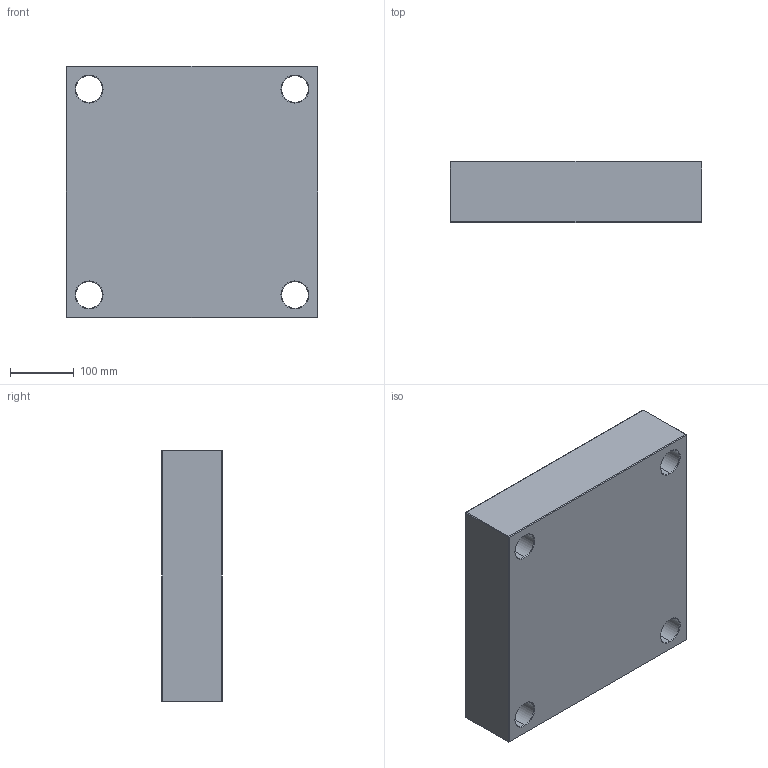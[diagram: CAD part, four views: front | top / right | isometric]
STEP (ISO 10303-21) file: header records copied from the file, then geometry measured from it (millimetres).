
FILE_DESCRIPTION (( 'STEP AP214' ), '1' );
FILE_NAME ('PC-396x396x96.STEP', '2020-04-21T17:15:26', ( 'August' ), ( '' ), 'SwSTEP 2.0', 'SolidWorks 2018', '' );
FILE_SCHEMA (( 'AUTOMOTIVE_DESIGN' ));
Length unit declared in the file: millimetre
Products named in the file (1): PC-396x396x96
Bounding box: 396 x 96 x 396 mm (x, y, z)
Volume: 14489083 mm3; surface area: 507933.2 mm2
Topology: 1 solids, 1 shells, 82 faces, 168 edges, 96 vertices
Faces by surface type: plane 34, cone 24, cylinder 24
Entity records: 2170 total; most frequent: DIRECTION 406, CARTESIAN_POINT 347, ORIENTED_EDGE 336, EDGE_CURVE 168, AXIS2_PLACEMENT_3D 155, EDGE_LOOP 98, LINE 96, VECTOR 96
